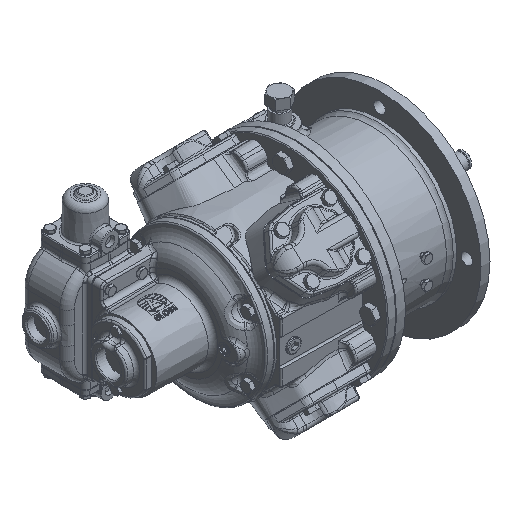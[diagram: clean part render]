
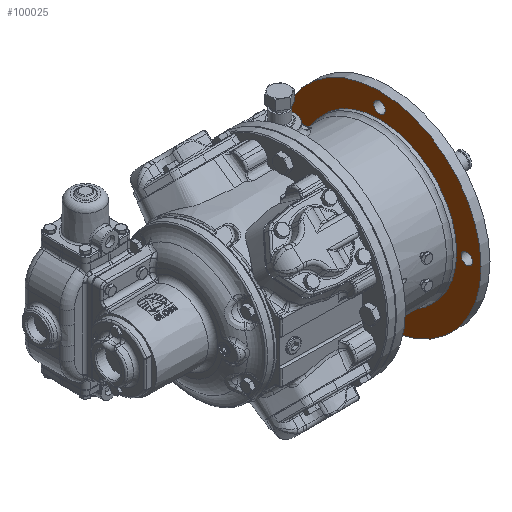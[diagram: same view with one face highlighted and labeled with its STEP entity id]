
A CAD part, isometric view. The second image highlights one B-rep face of the part: STEP entity #100025.
In plain terms, the highlighted planar face has unit normal (-1, 0, 0).
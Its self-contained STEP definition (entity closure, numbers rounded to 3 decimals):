
#5398 = FACE_BOUND ( 'NONE', #191596, .T. ) ;
#16514 = ORIENTED_EDGE ( 'NONE', *, *, #61183, .F. ) ;
#18691 = EDGE_LOOP ( 'NONE', ( #97547 ) ) ;
#22715 = ORIENTED_EDGE ( 'NONE', *, *, #102957, .F. ) ;
#27726 = VERTEX_POINT ( 'NONE', #58942 ) ;
#28707 = VERTEX_POINT ( 'NONE', #190009 ) ;
#29668 = CARTESIAN_POINT ( 'NONE',  ( 156.55, 0., -100.5 ) ) ;
#31213 = AXIS2_PLACEMENT_3D ( 'NONE', #40536, #191127, #56206 ) ;
#34945 = ORIENTED_EDGE ( 'NONE', *, *, #80991, .F. ) ;
#35007 = EDGE_LOOP ( 'NONE', ( #111394 ) ) ;
#38442 = ORIENTED_EDGE ( 'NONE', *, *, #78671, .T. ) ;
#40177 = AXIS2_PLACEMENT_3D ( 'NONE', #152725, #78395, #154661 ) ;
#40536 = CARTESIAN_POINT ( 'NONE',  ( 156.55, 125., 0. ) ) ;
#43523 = CIRCLE ( 'NONE', #99617, 125. ) ;
#48026 = DIRECTION ( 'NONE',  ( 0., 0., 1. ) ) ;
#48119 = DIRECTION ( 'NONE',  ( 0., 0., 1. ) ) ;
#54022 = AXIS2_PLACEMENT_3D ( 'NONE', #95689, #64434, #138739 ) ;
#56206 = DIRECTION ( 'NONE',  ( 0., 0., 1. ) ) ;
#58942 = CARTESIAN_POINT ( 'NONE',  ( 156.55, -107.5, 7. ) ) ;
#61183 = EDGE_CURVE ( 'NONE', #93337, #93337, #108831, .T. ) ;
#61204 = CARTESIAN_POINT ( 'NONE',  ( 156.55, 0., 0. ) ) ;
#64434 = DIRECTION ( 'NONE',  ( -1., 0., 0. ) ) ;
#65057 = FACE_BOUND ( 'NONE', #111390, .T. ) ;
#73962 = DIRECTION ( 'NONE',  ( 0., 0., 1. ) ) ;
#74271 = CIRCLE ( 'NONE', #183564, 7. ) ;
#76678 = AXIS2_PLACEMENT_3D ( 'NONE', #61204, #105203, #73962 ) ;
#78395 = DIRECTION ( 'NONE',  ( -1., 0., 0. ) ) ;
#78671 = EDGE_CURVE ( 'NONE', #28707, #28707, #43523, .T. ) ;
#80991 = EDGE_CURVE ( 'NONE', #27726, #27726, #125243, .T. ) ;
#93337 = VERTEX_POINT ( 'NONE', #152972 ) ;
#94685 = EDGE_CURVE ( 'NONE', #146967, #146967, #107906, .T. ) ;
#95363 = FACE_BOUND ( 'NONE', #35007, .T. ) ;
#95689 = CARTESIAN_POINT ( 'NONE',  ( 156.55, 0., 107.5 ) ) ;
#97547 = ORIENTED_EDGE ( 'NONE', *, *, #94685, .F. ) ;
#99617 = AXIS2_PLACEMENT_3D ( 'NONE', #138062, #121438, #48119 ) ;
#100025 = ADVANCED_FACE ( 'NONE', ( #5398, #170636, #65057, #95363, #140319, #125637 ), #185308, .T. ) ;
#102957 = EDGE_CURVE ( 'NONE', #165488, #165488, #150756, .T. ) ;
#105203 = DIRECTION ( 'NONE',  ( -1., 0., 0. ) ) ;
#107906 = CIRCLE ( 'NONE', #76678, 95. ) ;
#108671 = VERTEX_POINT ( 'NONE', #29668 ) ;
#108831 = CIRCLE ( 'NONE', #40177, 7. ) ;
#111390 = EDGE_LOOP ( 'NONE', ( #34945 ) ) ;
#111394 = ORIENTED_EDGE ( 'NONE', *, *, #114127, .F. ) ;
#112269 = EDGE_LOOP ( 'NONE', ( #38442 ) ) ;
#114127 = EDGE_CURVE ( 'NONE', #108671, #108671, #74271, .T. ) ;
#121438 = DIRECTION ( 'NONE',  ( -1., 0., 0. ) ) ;
#125243 = CIRCLE ( 'NONE', #184597, 7. ) ;
#125637 = FACE_BOUND ( 'NONE', #18691, .T. ) ;
#131702 = DIRECTION ( 'NONE',  ( 0., 0., 1. ) ) ;
#138062 = CARTESIAN_POINT ( 'NONE',  ( 156.55, 0., 0. ) ) ;
#138739 = DIRECTION ( 'NONE',  ( 0., 0., 1. ) ) ;
#140319 = FACE_OUTER_BOUND ( 'NONE', #112269, .T. ) ;
#146352 = CARTESIAN_POINT ( 'NONE',  ( 156.55, 0., -107.5 ) ) ;
#146967 = VERTEX_POINT ( 'NONE', #147948 ) ;
#147948 = CARTESIAN_POINT ( 'NONE',  ( 156.55, 0., 95. ) ) ;
#149746 = DIRECTION ( 'NONE',  ( -1., 0., 0. ) ) ;
#150756 = CIRCLE ( 'NONE', #54022, 7. ) ;
#152725 = CARTESIAN_POINT ( 'NONE',  ( 156.55, 107.5, 0. ) ) ;
#152972 = CARTESIAN_POINT ( 'NONE',  ( 156.55, 107.5, 7. ) ) ;
#154661 = DIRECTION ( 'NONE',  ( 0., 0., 1. ) ) ;
#165488 = VERTEX_POINT ( 'NONE', #183037 ) ;
#170636 = FACE_BOUND ( 'NONE', #173485, .T. ) ;
#173485 = EDGE_LOOP ( 'NONE', ( #22715 ) ) ;
#177656 = DIRECTION ( 'NONE',  ( -1., 0., 0. ) ) ;
#181972 = CARTESIAN_POINT ( 'NONE',  ( 156.55, -107.5, 0. ) ) ;
#183037 = CARTESIAN_POINT ( 'NONE',  ( 156.55, 0., 114.5 ) ) ;
#183564 = AXIS2_PLACEMENT_3D ( 'NONE', #146352, #177656, #131702 ) ;
#184597 = AXIS2_PLACEMENT_3D ( 'NONE', #181972, #149746, #48026 ) ;
#185308 = PLANE ( 'NONE',  #31213 ) ;
#190009 = CARTESIAN_POINT ( 'NONE',  ( 156.55, 0., 125. ) ) ;
#191127 = DIRECTION ( 'NONE',  ( -1., 0., 0. ) ) ;
#191596 = EDGE_LOOP ( 'NONE', ( #16514 ) ) ;
